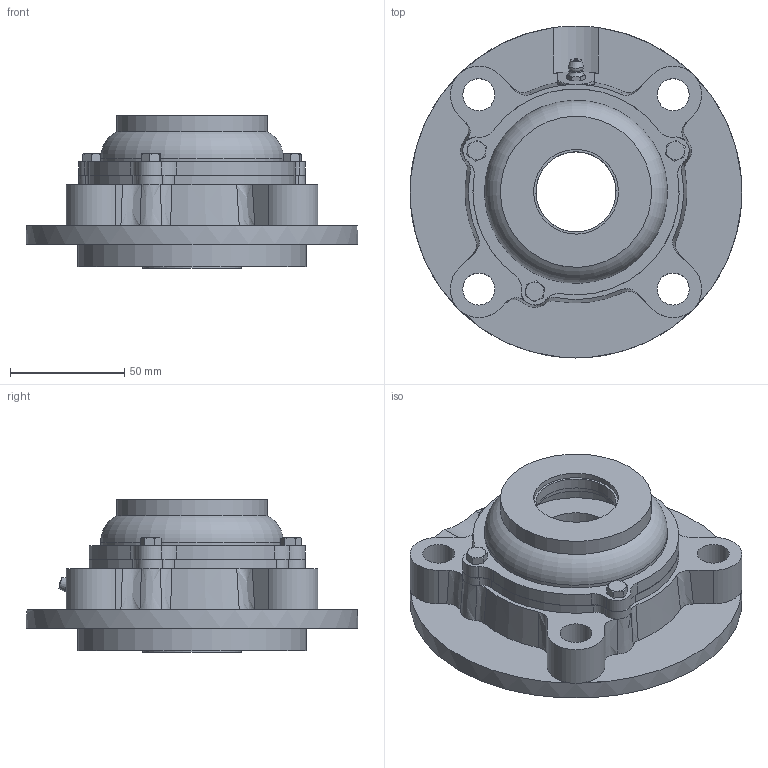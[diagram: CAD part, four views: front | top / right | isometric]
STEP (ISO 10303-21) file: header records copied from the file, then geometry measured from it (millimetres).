
FILE_DESCRIPTION((''),'2;1');
FILE_NAME('\\Ts-tgl068\j-cad-d-base\00.3DCADデータ作成フォルダ\02.フランジ形\CUKFC200\CUKFC208C+H.stp','2014-05-22T08:54:36',('btec_1106_2'),(''),'Autodesk Inventor 2012','Autodesk Inventor 2012','');
FILE_SCHEMA(('AUTOMOTIVE_DESIGN { 1 0 10303 214 1 1 1 1 }'));
Length unit declared in the file: millimetre
Products named in the file (7): CUKFC200C+H; CFC208; UK208; GU1; 208C35R; 208C35; M5X0
Assembly tree (8 placements, depth 3):
  CUKFC200C+H
    CFC208
    UK208
    GU1
    208C35R
      208C35
      M5X0  x3
Bounding box: 145 x 145 x 66.5 mm (x, y, z)
Volume: 359641.5 mm3; surface area: 100805 mm2
Topology: 7 solids, 7 shells, 301 faces, 761 edges, 490 vertices
Faces by surface type: plane 117, cylinder 88, cone 74, bspline 14, sphere 4, torus 4
Full cylindrical faces by diameter (mm): 4.134 x3, 5 x3, 5.359 x1, 6 x3, 6.35 x1, 14 x4, 35 x2, 37 x2, 53 x2, 66 x1, 78 x1, 80 x1, 82 x2, 100 x1, 145 x1
Entity records: 8592 total; most frequent: CARTESIAN_POINT 2378, ORIENTED_EDGE 1262, DIRECTION 1235, EDGE_CURVE 631, AXIS2_PLACEMENT_3D 521, VERTEX_POINT 428, EDGE_LOOP 346, FACE_OUTER_BOUND 267
